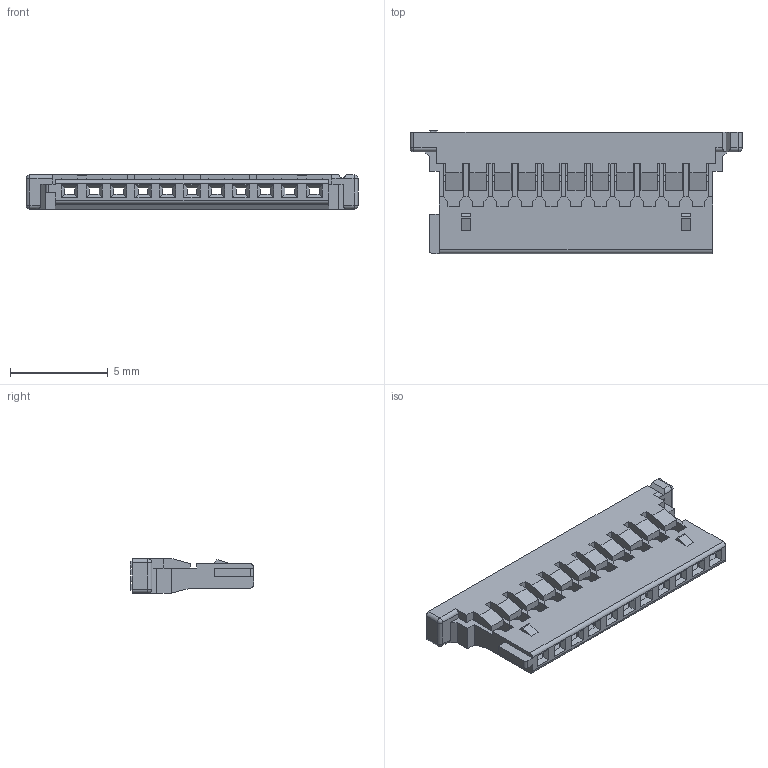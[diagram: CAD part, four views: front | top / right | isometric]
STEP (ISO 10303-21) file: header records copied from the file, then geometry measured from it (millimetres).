
FILE_DESCRIPTION((''),'2;1');
FILE_NAME('PRT0103','2014-02-28T',('k40151'),(''),'PRO/ENGINEER BY PARAMETRIC TECHNOLOGY CORPORATION, 2009360','PRO/ENGINEER BY PARAMETRIC TECHNOLOGY CORPORATION, 2009360','');
FILE_SCHEMA(('CONFIG_CONTROL_DESIGN'));
Length unit declared in the file: millimetre
Products named in the file (1): PRT0103
Bounding box: 16.97 x 6.3 x 1.75 mm (x, y, z)
Volume: 61.2 mm3; surface area: 522.6 mm2
Topology: 1 solids, 1 shells, 621 faces, 1790 edges, 1152 vertices
Faces by surface type: plane 603, cylinder 14, sphere 4
Entity records: 19921 total; most frequent: CARTESIAN_POINT 3583, ORIENTED_EDGE 3572, DIRECTION 3050, EDGE_CURVE 1786, VECTOR 1758, LINE 1758, VERTEX_POINT 1152, EDGE_LOOP 650
